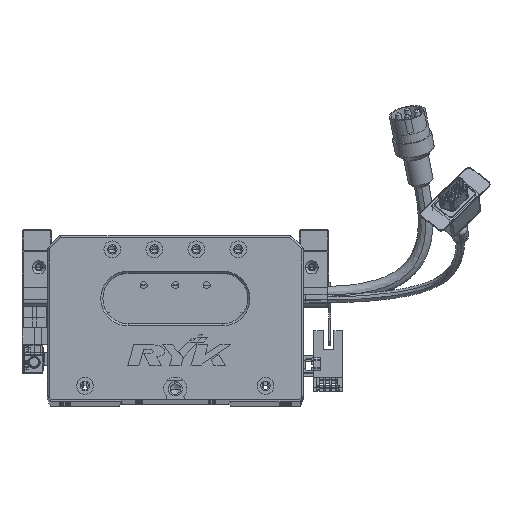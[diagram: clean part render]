
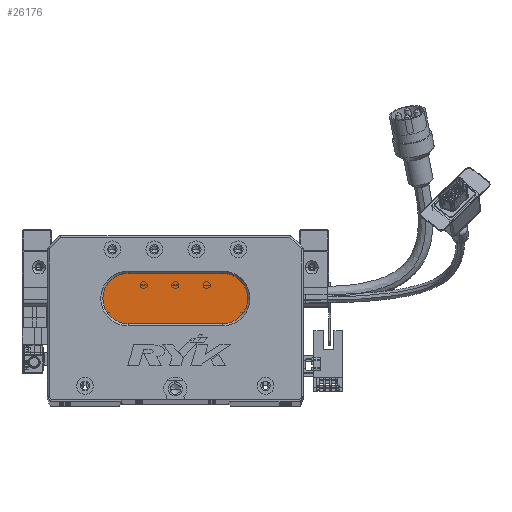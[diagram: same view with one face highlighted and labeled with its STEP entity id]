
A CAD part, top view. The second image highlights one B-rep face of the part: STEP entity #26176.
In plain terms, the highlighted planar face has unit normal (0, 0, 1) as drawn and (0, 0, -1) by its records, which use the part's own axes.
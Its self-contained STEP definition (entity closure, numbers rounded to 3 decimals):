
#361 = AXIS2_PLACEMENT_3D ( 'NONE', #39700, #74088, #4902 ) ;
#1335 = DIRECTION ( 'NONE',  ( 0., 0., -1. ) ) ;
#1349 = AXIS2_PLACEMENT_3D ( 'NONE', #82766, #55424, #41256 ) ;
#4902 = DIRECTION ( 'NONE',  ( -1., 0., 0. ) ) ;
#12042 = AXIS2_PLACEMENT_3D ( 'NONE', #79092, #1335, #86215 ) ;
#14008 = CARTESIAN_POINT ( 'NONE',  ( 83.5, 60., 13. ) ) ;
#14310 = ORIENTED_EDGE ( 'NONE', *, *, #65860, .T. ) ;
#14807 = EDGE_CURVE ( 'NONE', #41693, #84227, #39573, .T. ) ;
#19264 = EDGE_CURVE ( 'NONE', #30195, #67676, #55578, .T. ) ;
#19390 = DIRECTION ( 'NONE',  ( -1., 0., 0. ) ) ;
#20664 = CARTESIAN_POINT ( 'NONE',  ( 83.5, 36., 13. ) ) ;
#20906 = CIRCLE ( 'NONE', #12042, 12. ) ;
#24764 = VECTOR ( 'NONE', #76420, 1000. ) ;
#25237 = CARTESIAN_POINT ( 'NONE',  ( 83.5, 48., 13. ) ) ;
#25671 = CIRCLE ( 'NONE', #1349, 12. ) ;
#26061 = EDGE_CURVE ( 'NONE', #36024, #30195, #75086, .T. ) ;
#26176 = ADVANCED_FACE ( 'NONE', ( #66282 ), #39999, .T. ) ;
#28129 = DIRECTION ( 'NONE',  ( -1., 0., 0. ) ) ;
#30195 = VERTEX_POINT ( 'NONE', #60732 ) ;
#31678 = EDGE_CURVE ( 'NONE', #84227, #36024, #25671, .T. ) ;
#32851 = CARTESIAN_POINT ( 'NONE',  ( 26.5, 48., 13. ) ) ;
#33508 = DIRECTION ( 'NONE',  ( 0., 0., -1. ) ) ;
#34753 = ORIENTED_EDGE ( 'NONE', *, *, #26061, .T. ) ;
#36024 = VERTEX_POINT ( 'NONE', #32851 ) ;
#37215 = ORIENTED_EDGE ( 'NONE', *, *, #14807, .T. ) ;
#38715 = ORIENTED_EDGE ( 'NONE', *, *, #19264, .T. ) ;
#39573 = LINE ( 'NONE', #76689, #90257 ) ;
#39700 = CARTESIAN_POINT ( 'NONE',  ( 38.5, 48., 13. ) ) ;
#39999 = PLANE ( 'NONE',  #83450 ) ;
#41256 = DIRECTION ( 'NONE',  ( -1., 0., 0. ) ) ;
#41693 = VERTEX_POINT ( 'NONE', #20664 ) ;
#43099 = CARTESIAN_POINT ( 'NONE',  ( 38.5, 36., 13. ) ) ;
#55424 = DIRECTION ( 'NONE',  ( 0., 0., -1. ) ) ;
#55578 = LINE ( 'NONE', #14008, #24764 ) ;
#60732 = CARTESIAN_POINT ( 'NONE',  ( 38.5, 60., 13. ) ) ;
#65860 = EDGE_CURVE ( 'NONE', #67676, #41693, #20906, .T. ) ;
#66282 = FACE_OUTER_BOUND ( 'NONE', #89785, .T. ) ;
#67676 = VERTEX_POINT ( 'NONE', #90036 ) ;
#74088 = DIRECTION ( 'NONE',  ( 0., 0., -1. ) ) ;
#75086 = CIRCLE ( 'NONE', #361, 12. ) ;
#76420 = DIRECTION ( 'NONE',  ( 1., 0., 0. ) ) ;
#76689 = CARTESIAN_POINT ( 'NONE',  ( 83.5, 36., 13. ) ) ;
#79092 = CARTESIAN_POINT ( 'NONE',  ( 83.5, 48., 13. ) ) ;
#82766 = CARTESIAN_POINT ( 'NONE',  ( 38.5, 48., 13. ) ) ;
#83450 = AXIS2_PLACEMENT_3D ( 'NONE', #25237, #33508, #19390 ) ;
#84227 = VERTEX_POINT ( 'NONE', #43099 ) ;
#86215 = DIRECTION ( 'NONE',  ( -1., 0., 0. ) ) ;
#89785 = EDGE_LOOP ( 'NONE', ( #14310, #37215, #89838, #34753, #38715 ) ) ;
#89838 = ORIENTED_EDGE ( 'NONE', *, *, #31678, .T. ) ;
#90036 = CARTESIAN_POINT ( 'NONE',  ( 83.5, 60., 13. ) ) ;
#90257 = VECTOR ( 'NONE', #28129, 1000. ) ;
